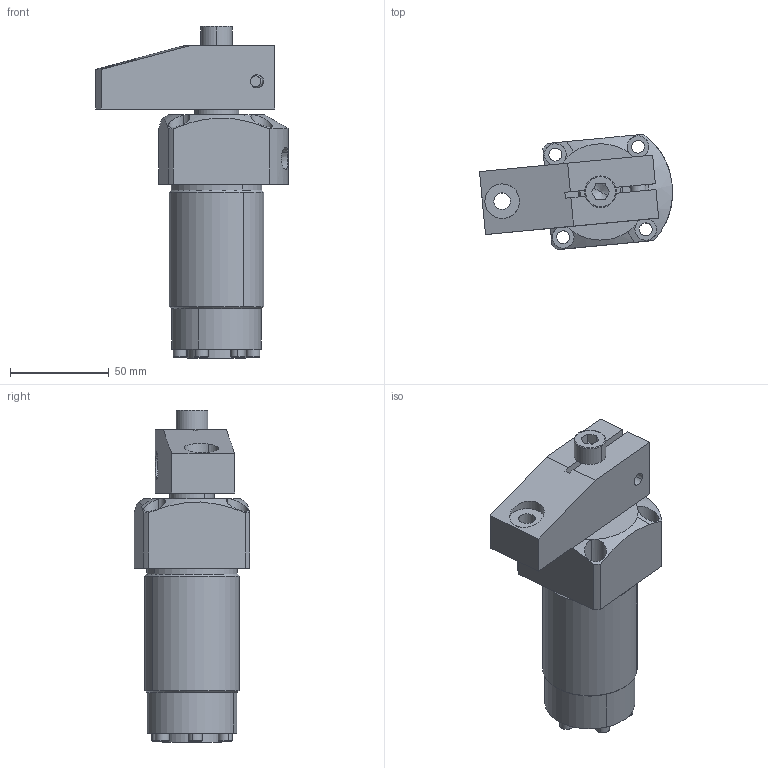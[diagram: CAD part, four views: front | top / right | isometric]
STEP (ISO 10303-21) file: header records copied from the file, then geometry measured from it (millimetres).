
FILE_DESCRIPTION(('CATIA V5 STEP Exchange'),'2;1');
FILE_NAME('\\kjf-102\KJF_TC\Hydraulic_Clamp\Standard\SWING_CLAMP\SDRL-3030\Rev-A\배포도면\SDx-3030_-.stp','2026-09-07T01:09:49+00:00',('none'),('none'),'CATIA Version 5 Release 19 SP 6 (IN-10)','CATIA V5 STEP AP203','none');
FILE_SCHEMA(('CONFIG_CONTROL_DESIGN'));
Length unit declared in the file: millimetre
Products named in the file (1): SDx-3030_C_3GUIDE
Assembly tree (12 placements, depth 2):
  SDx-3030_C_3GUIDE
    #58
    #2484
    #2822
    #3387
    #4462  x6
    #5429
    #6321
Bounding box: 97.65 x 58.4 x 168 mm (x, y, z)
Volume: 279924.3 mm3; surface area: 72244.2 mm2
Topology: 12 solids, 12 shells, 399 faces, 961 edges, 606 vertices
Faces by surface type: cylinder 179, plane 122, cone 64, torus 34
Entity records: 7214 total; most frequent: CARTESIAN_POINT 1725, ORIENTED_EDGE 1166, DIRECTION 890, EDGE_CURVE 583, AXIS2_PLACEMENT_3D 466, VERTEX_POINT 376, EDGE_LOOP 295, CIRCLE 289
